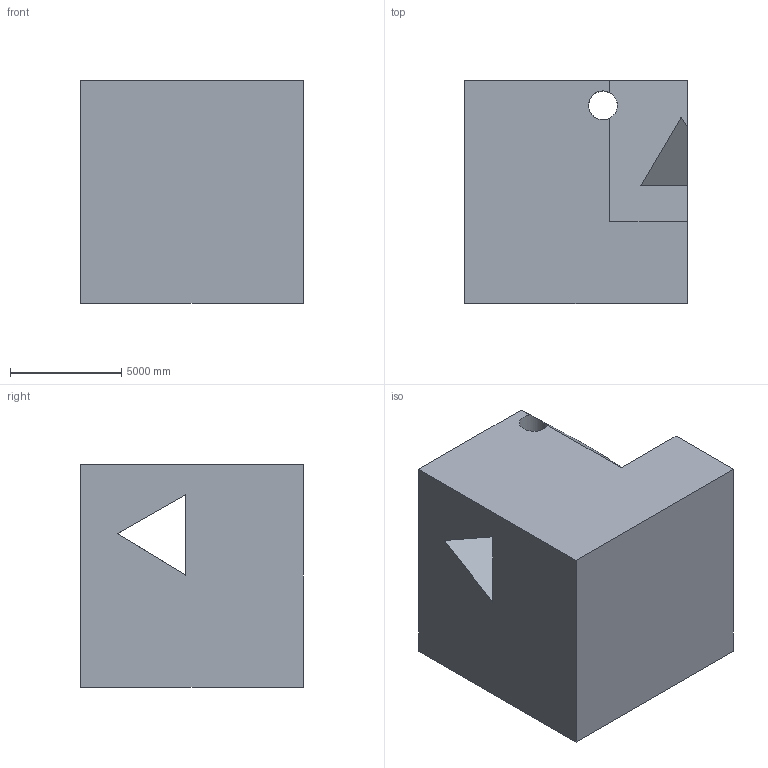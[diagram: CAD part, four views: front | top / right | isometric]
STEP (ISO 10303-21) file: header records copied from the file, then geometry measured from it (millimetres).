
FILE_DESCRIPTION (( 'STEP AP203' ), '1' );
FILE_NAME ('24.STEP', '2022-08-30T14:03:56', ( 'user' ), ( '' ), 'SwSTEP 2.0', 'SolidWorks 2021', '' );
FILE_SCHEMA (( 'CONFIG_CONTROL_DESIGN' ));
Length unit declared in the file: centimetre
Products named in the file (1): 24
Bounding box: 10000 x 10000 x 10000 mm (x, y, z)
Volume: 896397641546.5 mm3; surface area: 713342451.2 mm2
Topology: 1 solids, 1 shells, 13 faces, 42 edges, 28 vertices
Faces by surface type: plane 11, cylinder 2
Entity records: 549 total; most frequent: CARTESIAN_POINT 96, ORIENTED_EDGE 84, DIRECTION 70, EDGE_CURVE 42, LINE 34, VECTOR 34, VERTEX_POINT 28, AXIS2_PLACEMENT_3D 18
